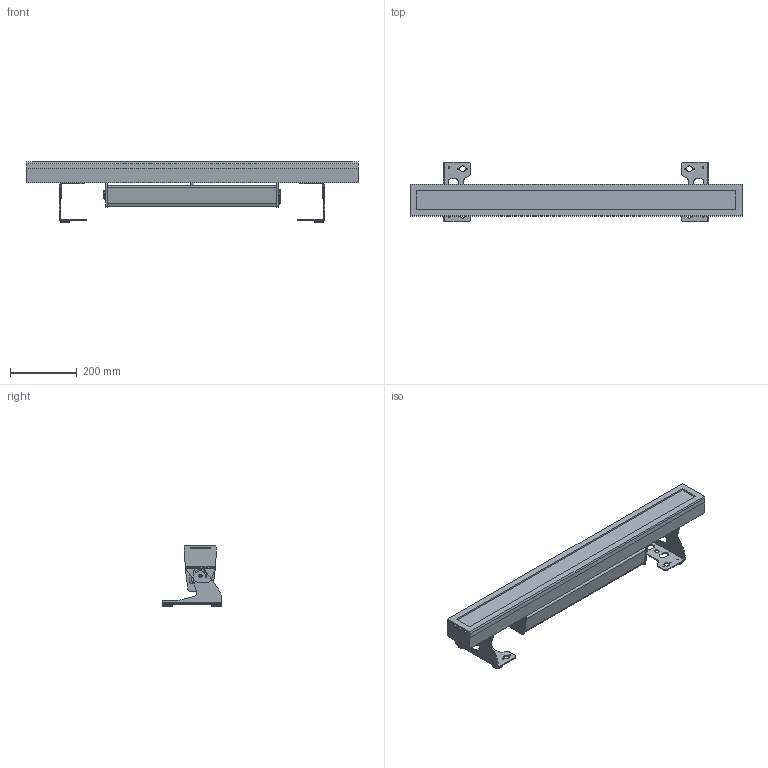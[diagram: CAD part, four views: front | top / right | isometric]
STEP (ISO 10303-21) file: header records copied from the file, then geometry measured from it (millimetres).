
FILE_DESCRIPTION(/* description */ ('Unknown'),/* implementation_level */ '2;1');
FILE_NAME(/* name */ '3D_ROBIN iBar 15',/* time_stamp */ '2021-05-20T13:27:30+02:00',/* author */ ('Unknown'),/* organization */ ('Unknown'),/* preprocessor_version */ 'ST-DEVELOPER v16.7',/* originating_system */ 'Solid Edge',/* authorisation */ 'Unknown');
FILE_SCHEMA (('AUTOMOTIVE_DESIGN {1 0 10303 214 3 1 1}'));
Length unit declared in the file: millimetre
Products named in the file (8): 3D_ROBIN iBar 15; CycBar 15_Housing; CycBar Power15_Housing; Závìs pravý; Závìs levý; Noha pravá; Noha levá; 19040191a Gumová nožka ROBE nízká
Assembly tree (10 placements, depth 2):
  3D_ROBIN iBar 15
    CycBar 15_Housing
    CycBar Power15_Housing
    Závìs pravý
    Závìs levý
    Noha pravá
    Noha levá
    19040191a Gumová nožka ROBE nízká  x4
Bounding box: 997 x 180 x 182.6 mm (x, y, z)
Volume: 8364661 mm3; surface area: 613750.2 mm2
Topology: 10 solids, 10 shells, 396 faces, 1058 edges, 701 vertices
Faces by surface type: cylinder 187, plane 179, cone 22, bspline 4, torus 4
Full cylindrical faces by diameter (mm): 3.6 x8, 4.134 x4, 4.5 x2, 6 x8, 6.2 x2, 6.5 x8, 9 x2, 10 x2, 12 x8, 13 x2, 15.6 x1, 16 x4, 16.3 x4, 16.5 x1, 17 x4, 20 x1, 21.6 x1, 22 x2, 24 x1
Entity records: 12505 total; most frequent: CARTESIAN_POINT 2027, DIRECTION 2004, ORIENTED_EDGE 1808, EDGE_CURVE 904, AXIS2_PLACEMENT_3D 735, VERTEX_POINT 638, EDGE_LOOP 538, FACE_BOUND 538
